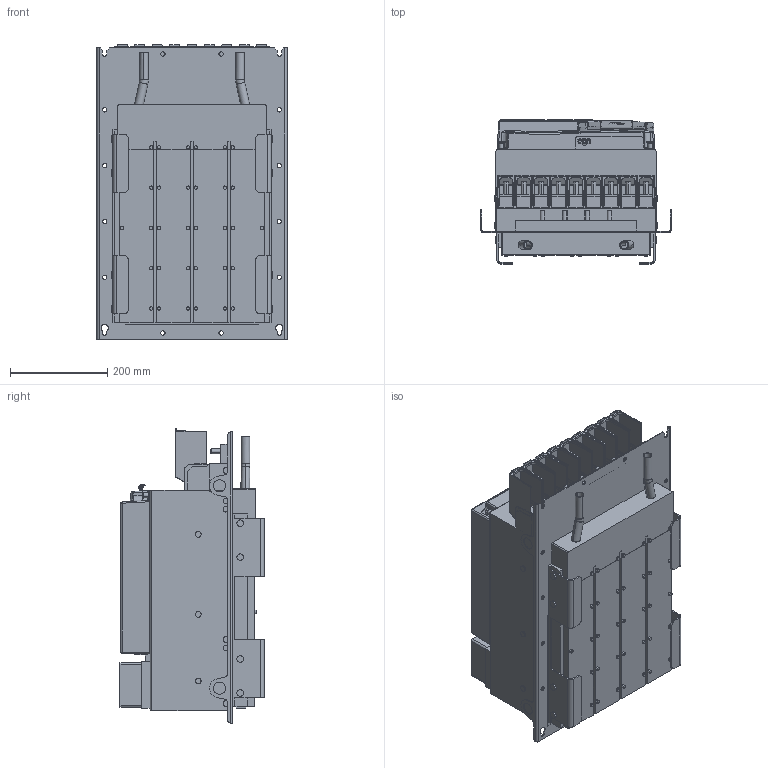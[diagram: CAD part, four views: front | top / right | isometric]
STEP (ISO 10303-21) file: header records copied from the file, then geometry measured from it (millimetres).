
FILE_DESCRIPTION (( 'STEP AP214' ), '1' );
FILE_NAME ('F6-7 TK5-A011.STEP', '2023-11-20T09:40:26', ( '' ), ( '' ), 'SwSTEP 2.0', 'SolidWorks 2022', '' );
FILE_SCHEMA (( 'AUTOMOTIVE_DESIGN' ));
Length unit declared in the file: millimetre
Products named in the file (13): Kundenmodell^10061502_000; Kundenmodell^10044643_000; 10043622_000_70F6 Klemme (Kundenmodell); F6-7 TK5-A011; Kundenmodell^10059764_000; Kundenmodell^10045475_000_Gehäusebaugruppe ohne Lüfterkarte; Kundenmodell^10043622_000; 10045475_000_Gehäusebaugruppe F6-7 (Kundenmodell); 10078335_000_Leistungsteil + BW F6-7 TW5 (Kundenmodell); 10044643_000_Kundenmodell; Kundenmodell mit Zubehör^10078335_000; 10059764_000_Blindabdeckung (Kundenmodell); 10061502_000_Deckel (Kundenmodell)
Assembly tree (12 placements, depth 4):
  F6-7 TK5-A011
    10078335_000_Leistungsteil + BW F6-7 TW5 (Kundenmodell)
      10043622_000_70F6 Klemme (Kundenmodell)
        Kundenmodell^10043622_000
      Kundenmodell mit Zubehör^10078335_000
    10045475_000_Gehäusebaugruppe F6-7 (Kundenmodell)
      10061502_000_Deckel (Kundenmodell)
        Kundenmodell^10061502_000
      Kundenmodell^10045475_000_Gehäusebaugruppe ohne Lüfterkarte
    10044643_000_Kundenmodell
      10059764_000_Blindabdeckung (Kundenmodell)
        Kundenmodell^10059764_000
      Kundenmodell^10044643_000
Bounding box: 392 x 296.9 x 606.26 mm (x, y, z)
Volume: 43535836 mm3; surface area: 2184629.5 mm2
Topology: 12 solids, 12 shells, 3339 faces, 8541 edges, 5268 vertices
Faces by surface type: plane 1683, cylinder 1066, bspline 281, sphere 172, torus 75, cone 62
Entity records: 107417 total; most frequent: CARTESIAN_POINT 28370, ORIENTED_EDGE 16862, DIRECTION 15704, EDGE_CURVE 8431, VECTOR 5334, LINE 5334, VERTEX_POINT 5265, AXIS2_PLACEMENT_3D 5185
